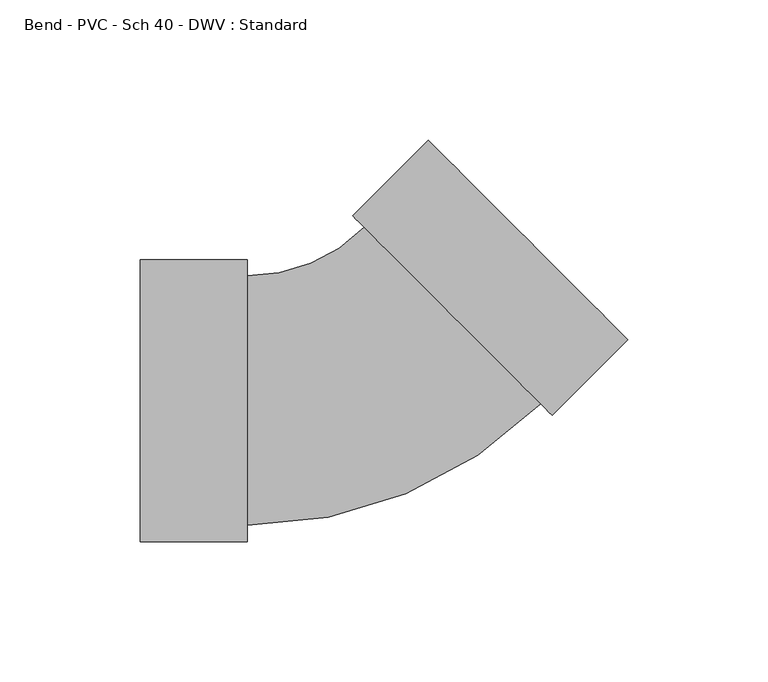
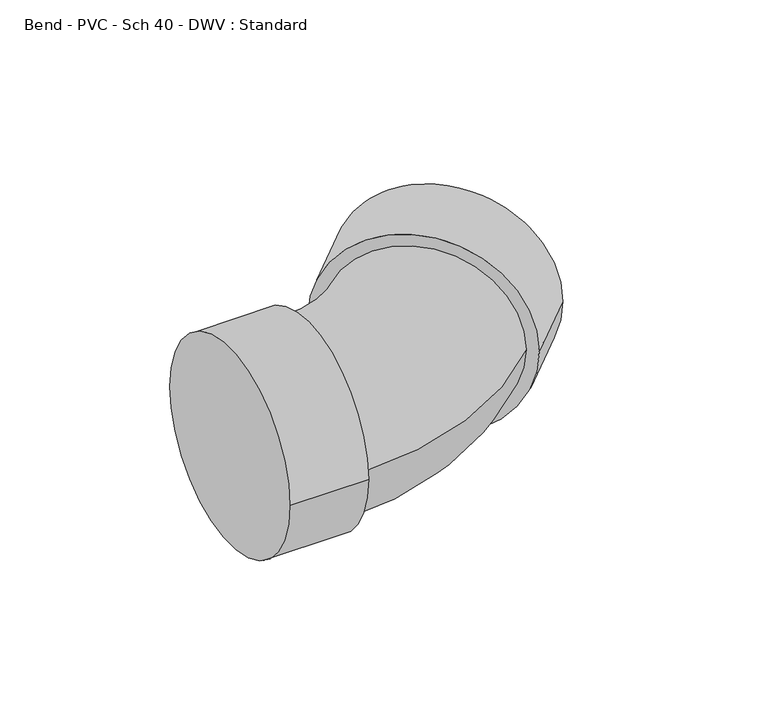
"""IFC4 building model written with IfcOpenShell, lengths in millimetres: pipe fitting geometry, Bend - PVC - Sch 40 - DWV : Standard."""

from ifc_helpers import new_model, si_unit, point, frame, origin, place, context, project, spatial, circle_curve, ellipse_curve, trimmed, source, transform, mapped, element, save
from ifc_brep_helpers import plane_surface, cylinder_surface, revolved_surface, advanced_brep


def bend_pvc_sch_40_dwv_standard_a7e4f147(model_context):
    return source(origin(), model_context, "Body", "AdvancedBrep", [
        advanced_brep(
        [(-80.9752, -50.2666, 0.0), (-80.9752, 50.2666, 0.0), (-42.8752, -50.2666, 0.0), (-42.8752, 50.2666, 0.0), (-42.8752, -44.45, 0.0), (-42.8752, 44.45, 0.0), (-1.1159797, 61.7481973, 0.0), (61.7482848, -1.1111239, 0.0), (65.8614038, -5.2239194, 0.0), (-5.2290987, 65.8609928, 0.0), (92.8011129, 21.7179082, 0.0), (21.7106104, 92.8028205, 0.0)],
        [
            (0, 1, circle_curve(frame((-80.9752, 0.0, 0.0), z_axis=(-1.0, 0.0, 0.0), x_axis=(0.0, 1.0, 0.0)), 50.2666)),
            (1, 0, circle_curve(frame((-80.9752, 0.0, 0.0), z_axis=(-1.0, 0.0, 0.0), x_axis=(0.0, 1.0, 0.0)), 50.2666)),
            (2, 3, circle_curve(frame((-42.8752, 0.0, 0.0), z_axis=(1.0, 0.0, 0.0), x_axis=(0.0, 1.0, 0.0)), 50.2666)),
            (3, 2, circle_curve(frame((-42.8752, 0.0, 0.0), z_axis=(1.0, 0.0, 0.0), x_axis=(0.0, 1.0, 0.0)), 50.2666)),
            (4, 5, circle_curve(frame((-42.8752, 0.0, 0.0), z_axis=(-1.0, 0.0, 0.0), x_axis=(0.0, 1.0, 0.0)), 44.45)),
            (5, 4, circle_curve(frame((-42.8752, 0.0, 0.0), z_axis=(-1.0, 0.0, 0.0), x_axis=(0.0, 1.0, 0.0)), 44.45)),
            (0, 2),
            (3, 1),
            (6, 5, circle_curve(frame((-42.8752, 103.5041338, 0.0), z_axis=(0.0, 0.0, -1.0), x_axis=(0.0, -1.0, 0.0)), 59.0541338)),
            (4, 7, circle_curve(frame((-42.8752, 103.5041338, 0.0), z_axis=(0.0, 0.0, 1.0), x_axis=(0.0, -1.0, 0.0)), 147.9541338)),
            (7, 6, circle_curve(frame((30.3161526, 30.3185367, 0.0), z_axis=(-0.7070789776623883, -0.7071345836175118, 0.0), x_axis=(-0.7071345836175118, 0.7070789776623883, 0.0)), 44.45)),
            (6, 7, circle_curve(frame((30.3161526, 30.3185367, 0.0), z_axis=(-0.7070789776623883, -0.7071345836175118, 0.0), x_axis=(-0.7071345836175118, 0.7070789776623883, 0.0)), 44.45)),
            (8, 9, circle_curve(frame((30.3161526, 30.3185367, 0.0), z_axis=(-0.7070789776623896, -0.7071345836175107, 0.0), x_axis=(-0.7071345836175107, 0.7070789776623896, 0.0)), 50.2666)),
            (9, 8, circle_curve(frame((30.3161526, 30.3185367, 0.0), z_axis=(-0.7070789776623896, -0.7071345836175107, 0.0), x_axis=(-0.7071345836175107, 0.7070789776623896, 0.0)), 50.2666)),
            (10, 11, circle_curve(frame((57.2558616, 57.2603643, 0.0), z_axis=(0.7070789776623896, 0.7071345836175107, 0.0), x_axis=(-0.7071345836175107, 0.7070789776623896, 0.0)), 50.2666)),
            (11, 10, circle_curve(frame((57.2558616, 57.2603643, 0.0), z_axis=(0.7070789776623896, 0.7071345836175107, 0.0), x_axis=(-0.7071345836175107, 0.7070789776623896, 0.0)), 50.2666)),
            (8, 10),
            (11, 9),
        ],
        [
            plane_surface(frame((-80.9752, 0.0, 0.0), z_axis=(-1.0, 0.0, 0.0), x_axis=(0.0, 0.0, 1.0))),
            plane_surface(frame((-42.8752, 0.0, 0.0), z_axis=(1.0, 0.0, 0.0), x_axis=(0.0, 0.0, 1.0))),
            cylinder_surface(frame((-80.9752, 0.0, 0.0), z_axis=(-1.0, 0.0, 0.0), x_axis=(0.0, 1.0, 0.0)), 50.2666),
            revolved_surface(trimmed(ellipse_curve(frame((-42.8752, 0.0, 0.0), z_axis=(-1.0, 0.0, 0.0), x_axis=(0.0, 1.0, 0.0)), 44.45, 44.45), [point((-42.8752, -44.45, 0.0))], [point((-42.8752, 44.45, 0.0))], True, "CARTESIAN"), (-42.8752, 103.5041338, 0.0), (0.0, 0.0, 1.0)),
            revolved_surface(trimmed(ellipse_curve(frame((-42.8752, 0.0, 0.0), z_axis=(-1.0, 0.0, 0.0), x_axis=(0.0, 1.0, 0.0)), 44.45, 44.45), [point((-42.8752, 44.45, 0.0))], [point((-42.8752, -44.45, 0.0))], True, "CARTESIAN"), (-42.8752, 103.5041338, 0.0), (0.0, 0.0, 1.0)),
            plane_surface(frame((30.3161526, 30.3185367, 0.0), z_axis=(-0.7070789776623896, -0.7071345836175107, 0.0), x_axis=(0.0, 0.0, 1.0))),
            plane_surface(frame((57.2558616, 57.2603643, 0.0), z_axis=(0.7070789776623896, 0.7071345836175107, 0.0), x_axis=(0.0, 0.0, 1.0))),
            cylinder_surface(frame((30.3161526, 30.3185367, 0.0), z_axis=(-0.7070789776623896, -0.7071345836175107, 0.0), x_axis=(-0.7071345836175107, 0.7070789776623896, 0.0)), 50.2666),
        ],
        [
            (0, [[1, 2]]),
            (1, [[3, 4], [5, 6]]),
            (2, [[-1, 7, -4, 8]]),
            (2, [[-2, -8, -3, -7]]),
            (3, [[9, -5, 10, 11]]),
            (4, [[-9, 12, -10, -6]]),
            (5, [[13, 14], [-11, -12]]),
            (6, [[15, 16]]),
            (7, [[-13, 17, -16, 18]]),
            (7, [[-14, -18, -15, -17]]),
        ],
    ),
    ])


if __name__ == "__main__":
    model = new_model("IFC4")
    model_context = context("Model", 3, world=origin())
    ifc_project = project(units=[si_unit("LENGTHUNIT", "METRE", prefix="MILLI")], contexts=[model_context])
    site = spatial("IfcSite", under=ifc_project)
    building = spatial("IfcBuilding", under=site)
    placement = place(None, origin())
    bend_pvc_sch_40_dwv_standard_shape = bend_pvc_sch_40_dwv_standard_a7e4f147(model_context)
    element("IfcPipeFitting", 1, ObjectType="Bend - PVC - Sch 40 - DWV : Standard", at=placement, inside=building, context=model_context, shape_type="MappedRepresentation", body=[
        mapped(bend_pvc_sch_40_dwv_standard_shape, transform((0.0, 0.0, 0.0), x_axis=(1.0, 0.0, 0.0), y_axis=(0.0, 1.0, 0.0), z_axis=(0.0, 0.0, 1.0))),
    ])
    save(model, "model.ifc")
